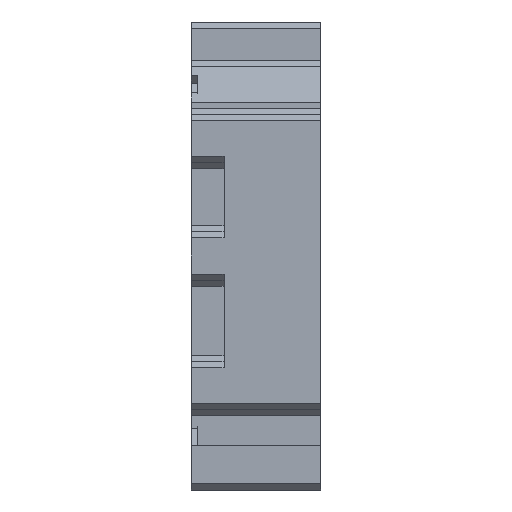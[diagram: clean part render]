
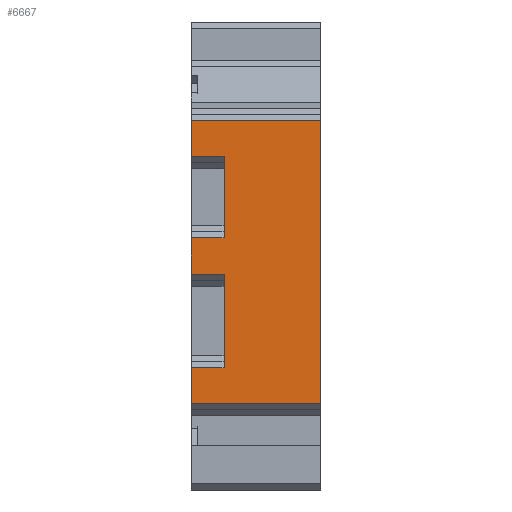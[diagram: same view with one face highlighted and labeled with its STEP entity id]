
A CAD part, front view. The second image highlights one B-rep face of the part: STEP entity #6667.
In plain terms, the highlighted planar face has unit normal (0, -1, 0).
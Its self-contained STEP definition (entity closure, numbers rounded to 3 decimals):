
#497=FACE_OUTER_BOUND('',#875,.T.);
#875=EDGE_LOOP('',(#5458,#5459,#5460,#5461,#5462,#5463,#5464,#5465,#5466,
#5467,#5468,#5469));
#980=LINE('',#8672,#1761);
#1187=LINE('',#9282,#1968);
#1195=LINE('',#9298,#1976);
#1203=LINE('',#9314,#1984);
#1483=LINE('',#10326,#2264);
#1510=LINE('',#10383,#2291);
#1658=LINE('',#10703,#2439);
#1660=LINE('',#10706,#2441);
#1663=LINE('',#10712,#2444);
#1668=LINE('',#10720,#2449);
#1671=LINE('',#10726,#2452);
#1672=LINE('',#10728,#2453);
#1761=VECTOR('',#7158,10.);
#1968=VECTOR('',#7393,10.);
#1976=VECTOR('',#7401,10.);
#1984=VECTOR('',#7409,10.);
#2264=VECTOR('',#7909,10.);
#2291=VECTOR('',#7948,10.);
#2439=VECTOR('',#8300,10.);
#2441=VECTOR('',#8304,10.);
#2444=VECTOR('',#8313,10.);
#2449=VECTOR('',#8324,10.);
#2452=VECTOR('',#8333,10.);
#2453=VECTOR('',#8336,10.);
#2540=VERTEX_POINT('',#8669);
#2541=VERTEX_POINT('',#8671);
#2768=VERTEX_POINT('',#9279);
#2769=VERTEX_POINT('',#9281);
#2776=VERTEX_POINT('',#9295);
#2777=VERTEX_POINT('',#9297);
#2784=VERTEX_POINT('',#9311);
#2785=VERTEX_POINT('',#9313);
#3002=VERTEX_POINT('',#10323);
#3003=VERTEX_POINT('',#10325);
#3026=VERTEX_POINT('',#10380);
#3027=VERTEX_POINT('',#10382);
#3145=EDGE_CURVE('',#2541,#2540,#980,.T.);
#3381=EDGE_CURVE('',#2769,#2768,#1187,.T.);
#3389=EDGE_CURVE('',#2777,#2776,#1195,.T.);
#3397=EDGE_CURVE('',#2785,#2784,#1203,.T.);
#3732=EDGE_CURVE('',#3002,#3003,#1483,.T.);
#3759=EDGE_CURVE('',#3026,#3027,#1510,.T.);
#3917=EDGE_CURVE('',#2541,#2768,#1658,.T.);
#3919=EDGE_CURVE('',#2769,#3002,#1660,.T.);
#3922=EDGE_CURVE('',#3003,#2776,#1663,.T.);
#3927=EDGE_CURVE('',#2777,#3026,#1668,.T.);
#3930=EDGE_CURVE('',#3027,#2784,#1671,.T.);
#3931=EDGE_CURVE('',#2785,#2540,#1672,.T.);
#5458=ORIENTED_EDGE('',*,*,#3931,.F.);
#5459=ORIENTED_EDGE('',*,*,#3397,.T.);
#5460=ORIENTED_EDGE('',*,*,#3930,.F.);
#5461=ORIENTED_EDGE('',*,*,#3759,.F.);
#5462=ORIENTED_EDGE('',*,*,#3927,.F.);
#5463=ORIENTED_EDGE('',*,*,#3389,.T.);
#5464=ORIENTED_EDGE('',*,*,#3922,.F.);
#5465=ORIENTED_EDGE('',*,*,#3732,.F.);
#5466=ORIENTED_EDGE('',*,*,#3919,.F.);
#5467=ORIENTED_EDGE('',*,*,#3381,.T.);
#5468=ORIENTED_EDGE('',*,*,#3917,.F.);
#5469=ORIENTED_EDGE('',*,*,#3145,.T.);
#6042=PLANE('',#7015);
#6667=ADVANCED_FACE('',(#497),#6042,.F.);
#7015=AXIS2_PLACEMENT_3D('',#10727,#8334,#8335);
#7158=DIRECTION('',(0.,0.,1.));
#7393=DIRECTION('',(0.,0.,-1.));
#7401=DIRECTION('',(0.,0.,-1.));
#7409=DIRECTION('',(0.,0.,-1.));
#7909=DIRECTION('',(0.,0.,1.));
#7948=DIRECTION('',(0.,0.,1.));
#8300=DIRECTION('',(-1.,0.,0.));
#8304=DIRECTION('',(1.,0.,0.));
#8313=DIRECTION('',(-1.,0.,0.));
#8324=DIRECTION('',(1.,0.,0.));
#8333=DIRECTION('',(-1.,0.,0.));
#8334=DIRECTION('center_axis',(0.,1.,0.));
#8335=DIRECTION('ref_axis',(0.,0.,1.));
#8336=DIRECTION('',(1.,0.,0.));
#8669=CARTESIAN_POINT('',(21.414,-44.8,47.9));
#8671=CARTESIAN_POINT('',(21.414,-44.8,1.));
#8672=CARTESIAN_POINT('',(21.414,-44.8,36.675));
#9279=CARTESIAN_POINT('',(0.,-44.8,1.));
#9281=CARTESIAN_POINT('',(0.,-44.8,6.965));
#9282=CARTESIAN_POINT('',(0.,-44.8,7.965));
#9295=CARTESIAN_POINT('',(0.,-44.8,22.467));
#9297=CARTESIAN_POINT('',(0.,-44.8,28.433));
#9298=CARTESIAN_POINT('',(0.,-44.8,29.433));
#9311=CARTESIAN_POINT('',(0.,-44.8,41.935));
#9313=CARTESIAN_POINT('',(0.,-44.8,47.9));
#9314=CARTESIAN_POINT('',(0.,-44.8,48.9));
#10323=CARTESIAN_POINT('',(5.414,-44.8,6.965));
#10325=CARTESIAN_POINT('',(5.414,-44.8,22.467));
#10326=CARTESIAN_POINT('',(5.414,-44.8,22.467));
#10380=CARTESIAN_POINT('',(5.414,-44.8,28.433));
#10382=CARTESIAN_POINT('',(5.414,-44.8,41.935));
#10383=CARTESIAN_POINT('',(5.414,-44.8,41.935));
#10703=CARTESIAN_POINT('',(0.,-44.8,1.));
#10706=CARTESIAN_POINT('',(0.,-44.8,6.965));
#10712=CARTESIAN_POINT('',(0.,-44.8,22.467));
#10720=CARTESIAN_POINT('',(0.,-44.8,28.433));
#10726=CARTESIAN_POINT('',(0.,-44.8,41.935));
#10727=CARTESIAN_POINT('Origin',(0.,-44.8,40.935));
#10728=CARTESIAN_POINT('',(0.,-44.8,47.9));
